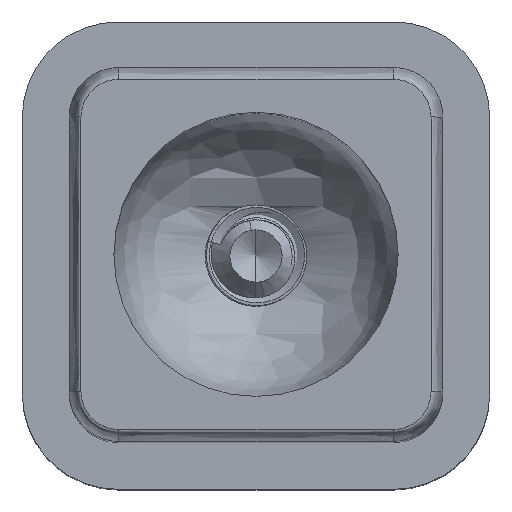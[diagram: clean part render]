
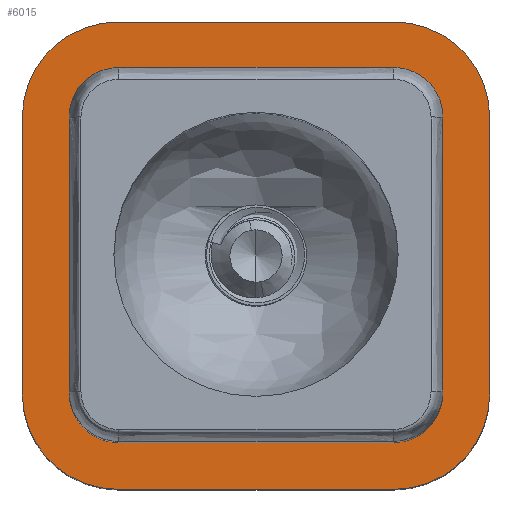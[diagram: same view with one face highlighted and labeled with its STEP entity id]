
A CAD part, top view. The second image highlights one B-rep face of the part: STEP entity #6015.
In plain terms, the highlighted planar face has unit normal (0, 0, 1).
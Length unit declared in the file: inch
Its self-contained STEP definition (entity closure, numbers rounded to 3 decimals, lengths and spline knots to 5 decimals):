
#99 = CARTESIAN_POINT ( 'NONE',  ( 0.2025, 0.2025, 0. ) ) ;
#120 = ORIENTED_EDGE ( 'NONE', *, *, #4190, .F. ) ;
#144 = FACE_OUTER_BOUND ( 'NONE', #7630, .T. ) ;
#195 = LINE ( 'NONE', #5992, #2159 ) ;
#204 = CARTESIAN_POINT ( 'NONE',  ( 0.925, 0.925, 0. ) ) ;
#283 = CIRCLE ( 'NONE', #2527, 0.25 ) ;
#375 = DIRECTION ( 'NONE',  ( 1., 0., 0. ) ) ;
#433 = CARTESIAN_POINT ( 'NONE',  ( 1.0525, 0.9225, 0. ) ) ;
#589 = EDGE_LOOP ( 'NONE', ( #1301, #3477, #5187, #2922, #5198, #5852, #2509, #6955 ) ) ;
#660 = DIRECTION ( 'NONE',  ( 0., -1., 0. ) ) ;
#726 = DIRECTION ( 'NONE',  ( 1., 0., 0. ) ) ;
#796 = VERTEX_POINT ( 'NONE', #5964 ) ;
#819 = DIRECTION ( 'NONE',  ( 1., 0., 0. ) ) ;
#925 = DIRECTION ( 'NONE',  ( -1., 0., 0. ) ) ;
#1301 = ORIENTED_EDGE ( 'NONE', *, *, #6924, .T. ) ;
#1326 = CARTESIAN_POINT ( 'NONE',  ( 0.925, -0.05, 0. ) ) ;
#1328 = VERTEX_POINT ( 'NONE', #433 ) ;
#1351 = DIRECTION ( 'NONE',  ( 1., 0., 0. ) ) ;
#1405 = CIRCLE ( 'NONE', #1874, 0.25 ) ;
#1435 = EDGE_CURVE ( 'NONE', #5845, #6154, #1405, .T. ) ;
#1544 = VECTOR ( 'NONE', #7594, 39.37008 ) ;
#1588 = CARTESIAN_POINT ( 'NONE',  ( 1.175, 0.2, 0. ) ) ;
#1635 = AXIS2_PLACEMENT_3D ( 'NONE', #7073, #2793, #7794 ) ;
#1684 = VERTEX_POINT ( 'NONE', #7151 ) ;
#1843 = EDGE_CURVE ( 'NONE', #796, #7050, #195, .T. ) ;
#1874 = AXIS2_PLACEMENT_3D ( 'NONE', #2104, #2125, #2140 ) ;
#1982 = VECTOR ( 'NONE', #6901, 39.37008 ) ;
#2104 = CARTESIAN_POINT ( 'NONE',  ( 0.925, 0.2, 0. ) ) ;
#2125 = DIRECTION ( 'NONE',  ( 0., 0., -1. ) ) ;
#2140 = DIRECTION ( 'NONE',  ( -1., 0., 0. ) ) ;
#2159 = VECTOR ( 'NONE', #6105, 39.37008 ) ;
#2261 = AXIS2_PLACEMENT_3D ( 'NONE', #7040, #2759, #7766 ) ;
#2509 = ORIENTED_EDGE ( 'NONE', *, *, #1843, .T. ) ;
#2515 = EDGE_CURVE ( 'NONE', #796, #3216, #7742, .T. ) ;
#2523 = CARTESIAN_POINT ( 'NONE',  ( 1.0525, 0.2025, 0. ) ) ;
#2527 = AXIS2_PLACEMENT_3D ( 'NONE', #204, #5301, #925 ) ;
#2590 = VECTOR ( 'NONE', #726, 39.37008 ) ;
#2597 = CARTESIAN_POINT ( 'NONE',  ( 1.0525, 0., 0. ) ) ;
#2712 = CARTESIAN_POINT ( 'NONE',  ( 0.925, 1.175, 0. ) ) ;
#2736 = DIRECTION ( 'NONE',  ( 0., 0., -1. ) ) ;
#2751 = DIRECTION ( 'NONE',  ( 1., 0., 0. ) ) ;
#2759 = DIRECTION ( 'NONE',  ( 0., 0., 1. ) ) ;
#2793 = DIRECTION ( 'NONE',  ( 0., 0., -1. ) ) ;
#2802 = ORIENTED_EDGE ( 'NONE', *, *, #1435, .F. ) ;
#2820 = VERTEX_POINT ( 'NONE', #2998 ) ;
#2922 = ORIENTED_EDGE ( 'NONE', *, *, #8421, .F. ) ;
#2998 = CARTESIAN_POINT ( 'NONE',  ( 1.175, 0.925, 0. ) ) ;
#3021 = CARTESIAN_POINT ( 'NONE',  ( 0.9225, 1.0525, 0. ) ) ;
#3100 = ORIENTED_EDGE ( 'NONE', *, *, #8996, .F. ) ;
#3216 = VERTEX_POINT ( 'NONE', #2523 ) ;
#3426 = CARTESIAN_POINT ( 'NONE',  ( 0.125, 0.125, 0. ) ) ;
#3473 = LINE ( 'NONE', #2597, #1544 ) ;
#3477 = ORIENTED_EDGE ( 'NONE', *, *, #6517, .F. ) ;
#3486 = ORIENTED_EDGE ( 'NONE', *, *, #8504, .F. ) ;
#3665 = CIRCLE ( 'NONE', #2261, 0.13 ) ;
#3767 = DIRECTION ( 'NONE',  ( 0., 0., 1. ) ) ;
#3831 = VERTEX_POINT ( 'NONE', #3021 ) ;
#3843 = AXIS2_PLACEMENT_3D ( 'NONE', #8058, #3767, #8771 ) ;
#4034 = CIRCLE ( 'NONE', #6390, 0.25 ) ;
#4044 = VERTEX_POINT ( 'NONE', #7643 ) ;
#4056 = CARTESIAN_POINT ( 'NONE',  ( 0.0725, 0., 0. ) ) ;
#4190 = EDGE_CURVE ( 'NONE', #9075, #2820, #283, .T. ) ;
#4251 = LINE ( 'NONE', #4971, #7840 ) ;
#4409 = EDGE_CURVE ( 'NONE', #1328, #3216, #3473, .T. ) ;
#4590 = VERTEX_POINT ( 'NONE', #7090 ) ;
#4593 = EDGE_CURVE ( 'NONE', #6946, #3831, #4710, .T. ) ;
#4648 = EDGE_CURVE ( 'NONE', #2820, #5845, #4251, .T. ) ;
#4710 = LINE ( 'NONE', #8526, #8064 ) ;
#4735 = DIRECTION ( 'NONE',  ( 0., 0., 1. ) ) ;
#4745 = EDGE_CURVE ( 'NONE', #4874, #9075, #5941, .T. ) ;
#4788 = AXIS2_PLACEMENT_3D ( 'NONE', #9016, #4735, #375 ) ;
#4797 = EDGE_CURVE ( 'NONE', #4590, #8357, #4034, .T. ) ;
#4839 = CARTESIAN_POINT ( 'NONE',  ( 0.2025, 0.0725, 0. ) ) ;
#4874 = VERTEX_POINT ( 'NONE', #6361 ) ;
#4927 = CIRCLE ( 'NONE', #8626, 0.13 ) ;
#4943 = DIRECTION ( 'NONE',  ( 0., 1., 0. ) ) ;
#4971 = CARTESIAN_POINT ( 'NONE',  ( 1.175, 0.2, 0. ) ) ;
#5187 = ORIENTED_EDGE ( 'NONE', *, *, #4593, .T. ) ;
#5198 = ORIENTED_EDGE ( 'NONE', *, *, #4409, .T. ) ;
#5201 = DIRECTION ( 'NONE',  ( 0., 0., 1. ) ) ;
#5301 = DIRECTION ( 'NONE',  ( 0., 0., -1. ) ) ;
#5374 = CIRCLE ( 'NONE', #1635, 0.25 ) ;
#5501 = CARTESIAN_POINT ( 'NONE',  ( 0.2025, 1.0525, 0. ) ) ;
#5548 = CARTESIAN_POINT ( 'NONE',  ( -0.05, 0.2, 0. ) ) ;
#5573 = ORIENTED_EDGE ( 'NONE', *, *, #4745, .F. ) ;
#5600 = PLANE ( 'NONE',  #8804 ) ;
#5700 = EDGE_CURVE ( 'NONE', #6078, #7050, #4927, .T. ) ;
#5702 = LINE ( 'NONE', #7758, #9289 ) ;
#5845 = VERTEX_POINT ( 'NONE', #1588 ) ;
#5852 = ORIENTED_EDGE ( 'NONE', *, *, #2515, .F. ) ;
#5941 = LINE ( 'NONE', #2712, #2590 ) ;
#5964 = CARTESIAN_POINT ( 'NONE',  ( 0.9225, 0.0725, 0. ) ) ;
#5992 = CARTESIAN_POINT ( 'NONE',  ( 0., 0.0725, 0. ) ) ;
#6015 = ADVANCED_FACE ( 'NONE', ( #144, #7827 ), #5600, .T. ) ;
#6078 = VERTEX_POINT ( 'NONE', #7786 ) ;
#6098 = EDGE_CURVE ( 'NONE', #8357, #4044, #5702, .T. ) ;
#6105 = DIRECTION ( 'NONE',  ( -1., 0., 0. ) ) ;
#6154 = VERTEX_POINT ( 'NONE', #1326 ) ;
#6243 = ORIENTED_EDGE ( 'NONE', *, *, #6098, .F. ) ;
#6253 = ORIENTED_EDGE ( 'NONE', *, *, #4797, .F. ) ;
#6361 = CARTESIAN_POINT ( 'NONE',  ( 0.2, 1.175, 0. ) ) ;
#6390 = AXIS2_PLACEMENT_3D ( 'NONE', #7013, #2736, #7739 ) ;
#6517 = EDGE_CURVE ( 'NONE', #6946, #1684, #8597, .T. ) ;
#6689 = ORIENTED_EDGE ( 'NONE', *, *, #4648, .F. ) ;
#6901 = DIRECTION ( 'NONE',  ( 0., 1., 0. ) ) ;
#6924 = EDGE_CURVE ( 'NONE', #6078, #1684, #7716, .T. ) ;
#6946 = VERTEX_POINT ( 'NONE', #5501 ) ;
#6955 = ORIENTED_EDGE ( 'NONE', *, *, #5700, .F. ) ;
#6961 = DIRECTION ( 'NONE',  ( -1., 0., 0. ) ) ;
#7013 = CARTESIAN_POINT ( 'NONE',  ( 0.2, 0.2, 0. ) ) ;
#7028 = DIRECTION ( 'NONE',  ( 0., 0., 1. ) ) ;
#7040 = CARTESIAN_POINT ( 'NONE',  ( 0.9225, 0.9225, 0. ) ) ;
#7050 = VERTEX_POINT ( 'NONE', #4839 ) ;
#7073 = CARTESIAN_POINT ( 'NONE',  ( 0.2, 0.925, 0. ) ) ;
#7090 = CARTESIAN_POINT ( 'NONE',  ( 0.2, -0.05, 0. ) ) ;
#7151 = CARTESIAN_POINT ( 'NONE',  ( 0.0725, 0.9225, 0. ) ) ;
#7359 = VECTOR ( 'NONE', #6961, 39.37008 ) ;
#7589 = LINE ( 'NONE', #7647, #7359 ) ;
#7594 = DIRECTION ( 'NONE',  ( 0., -1., 0. ) ) ;
#7630 = EDGE_LOOP ( 'NONE', ( #3100, #2802, #6689, #120, #5573, #3486, #6243, #6253 ) ) ;
#7643 = CARTESIAN_POINT ( 'NONE',  ( -0.05, 0.925, 0. ) ) ;
#7647 = CARTESIAN_POINT ( 'NONE',  ( 0.925, -0.05, 0. ) ) ;
#7716 = LINE ( 'NONE', #4056, #1982 ) ;
#7739 = DIRECTION ( 'NONE',  ( -1., 0., 0. ) ) ;
#7742 = CIRCLE ( 'NONE', #4788, 0.13 ) ;
#7758 = CARTESIAN_POINT ( 'NONE',  ( -0.05, 0.2, 0. ) ) ;
#7766 = DIRECTION ( 'NONE',  ( 1., 0., 0. ) ) ;
#7786 = CARTESIAN_POINT ( 'NONE',  ( 0.0725, 0.2025, 0. ) ) ;
#7794 = DIRECTION ( 'NONE',  ( -1., 0., 0. ) ) ;
#7827 = FACE_BOUND ( 'NONE', #589, .T. ) ;
#7840 = VECTOR ( 'NONE', #660, 39.37008 ) ;
#8058 = CARTESIAN_POINT ( 'NONE',  ( 0.2025, 0.9225, 0. ) ) ;
#8064 = VECTOR ( 'NONE', #1351, 39.37008 ) ;
#8357 = VERTEX_POINT ( 'NONE', #5548 ) ;
#8388 = CARTESIAN_POINT ( 'NONE',  ( 0.925, 1.175, 0. ) ) ;
#8421 = EDGE_CURVE ( 'NONE', #1328, #3831, #3665, .T. ) ;
#8504 = EDGE_CURVE ( 'NONE', #4044, #4874, #5374, .T. ) ;
#8526 = CARTESIAN_POINT ( 'NONE',  ( 0., 1.0525, 0. ) ) ;
#8597 = CIRCLE ( 'NONE', #3843, 0.13 ) ;
#8626 = AXIS2_PLACEMENT_3D ( 'NONE', #99, #5201, #819 ) ;
#8771 = DIRECTION ( 'NONE',  ( 1., 0., 0. ) ) ;
#8804 = AXIS2_PLACEMENT_3D ( 'NONE', #3426, #7028, #2751 ) ;
#8996 = EDGE_CURVE ( 'NONE', #6154, #4590, #7589, .T. ) ;
#9016 = CARTESIAN_POINT ( 'NONE',  ( 0.9225, 0.2025, 0. ) ) ;
#9075 = VERTEX_POINT ( 'NONE', #8388 ) ;
#9289 = VECTOR ( 'NONE', #4943, 39.37008 ) ;
